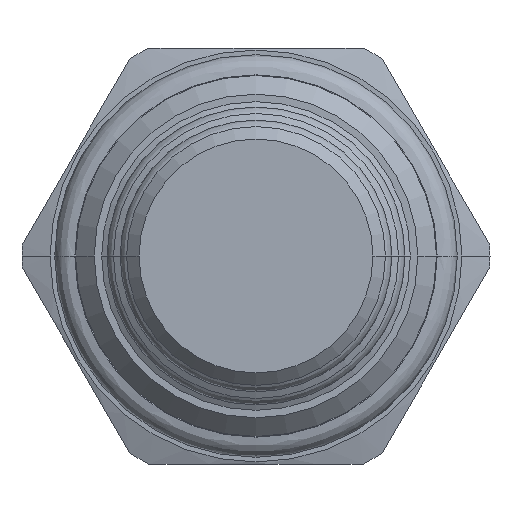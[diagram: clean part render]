
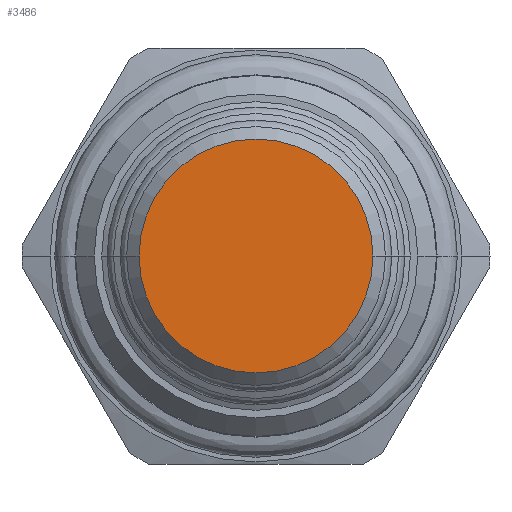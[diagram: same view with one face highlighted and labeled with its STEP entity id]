
A CAD part, front view. The second image highlights one B-rep face of the part: STEP entity #3486.
In plain terms, the highlighted planar face has unit normal (0, -1, 0).
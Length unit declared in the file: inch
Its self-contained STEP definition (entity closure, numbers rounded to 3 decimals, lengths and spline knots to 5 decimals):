
#1585=CARTESIAN_POINT('',(0.,-1.81277,0.));
#1586=DIRECTION('',(0.,-1.,0.));
#1587=DIRECTION('',(-1.,0.,0.));
#1588=AXIS2_PLACEMENT_3D('',#1585,#1586,#1587);
#1603=CARTESIAN_POINT('',(0.,-1.81277,0.));
#1604=DIRECTION('',(0.,1.,0.));
#1605=DIRECTION('',(-1.,0.,0.));
#1606=AXIS2_PLACEMENT_3D('',#1603,#1604,#1605);
#1875=CARTESIAN_POINT('',(-0.281,-1.81277,0.));
#1876=CARTESIAN_POINT('',(0.281,-1.81277,0.));
#1877=VERTEX_POINT('',#1875);
#1878=VERTEX_POINT('',#1876);
#3476=CARTESIAN_POINT('',(0.,-1.81277,0.));
#3477=DIRECTION('',(0.,-1.,0.));
#3478=DIRECTION('',(-1.,0.,0.));
#3479=AXIS2_PLACEMENT_3D('',#3476,#3477,#3478);
#3480=PLANE('',#3479);
#3481=ORIENTED_EDGE('',*,*,#3466,.F.);
#3483=ORIENTED_EDGE('',*,*,#3482,.T.);
#3484=EDGE_LOOP('',(#3481,#3483));
#3485=FACE_OUTER_BOUND('',#3484,.F.);
#3486=ADVANCED_FACE('',(#3485),#3480,.T.);
#1589=CIRCLE('',#1588,0.281);
#1607=CIRCLE('',#1606,0.281);
#3466=EDGE_CURVE('',#1877,#1878,#1589,.T.);
#3482=EDGE_CURVE('',#1877,#1878,#1607,.T.);
